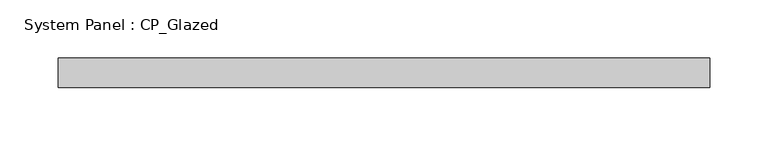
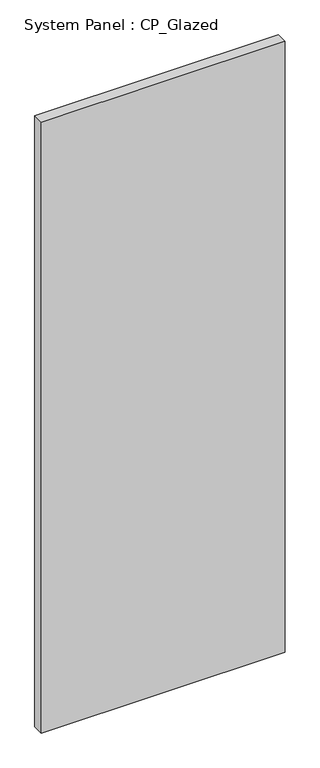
"""IFC4 building model written with IfcOpenShell, lengths in millimetres: plate geometry, System Panel : CP_Glazed."""

from ifc_helpers import new_model, si_unit, origin, origin_with_axes, place, context, project, spatial, polyline, outline, extrude, source, transform, mapped, element, save


def system_panel_cp_glazed_8cebb0cd(model_context):
    return source(origin(), model_context, "Body", "SweptSolid", [
        extrude(outline(polyline([(279.4, -44.45), (-279.4, -44.45), (-279.4, -19.05), (279.4, -19.05), (279.4, -44.45)])), origin_with_axes(), (0.0, 0.0, 1.0), 1479.55),
    ])


if __name__ == "__main__":
    model = new_model("IFC4")
    model_context = context("Model", 3, world=origin())
    ifc_project = project(units=[si_unit("LENGTHUNIT", "METRE", prefix="MILLI")], contexts=[model_context])
    site = spatial("IfcSite", under=ifc_project)
    building = spatial("IfcBuilding", under=site)
    placement = place(None, origin())
    system_panel_cp_glazed_shape = system_panel_cp_glazed_8cebb0cd(model_context)
    element("IfcPlate", 1, ObjectType="System Panel : CP_Glazed", at=placement, inside=building, context=model_context, shape_type="MappedRepresentation", body=[
        mapped(system_panel_cp_glazed_shape, transform((0.0, 0.0, 0.0), x_axis=(1.0, 0.0, 0.0), y_axis=(0.0, 1.0, 0.0), z_axis=(0.0, 0.0, 1.0))),
    ])
    save(model, "model.ifc")
